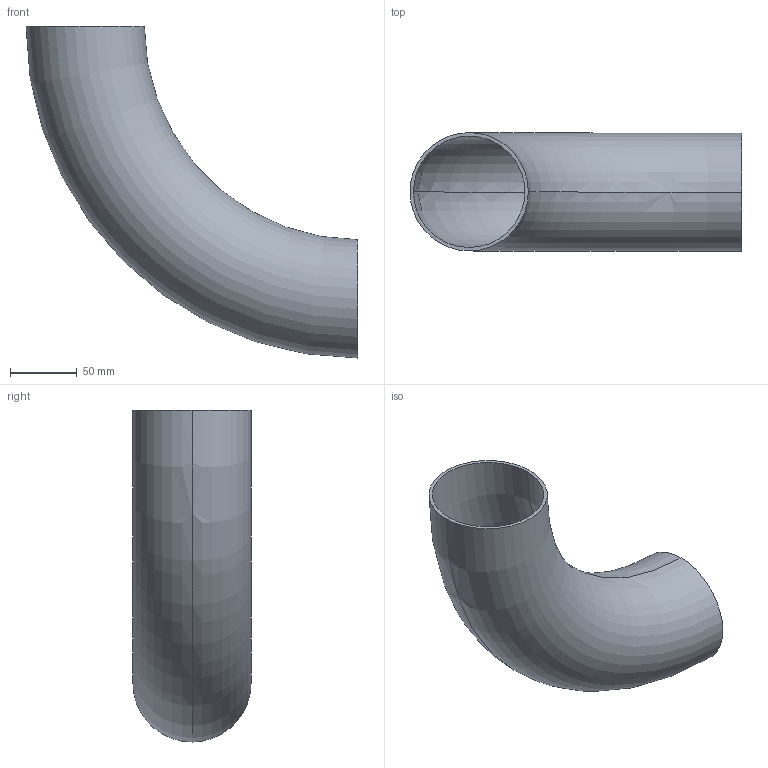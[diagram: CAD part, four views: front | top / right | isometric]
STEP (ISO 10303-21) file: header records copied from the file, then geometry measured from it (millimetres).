
FILE_DESCRIPTION (( 'STEP AP203' ), '1' );
FILE_NAME ('3D_R1655_88.9x2.6_17362290.STEP', '2024-08-05T09:18:10', ( '' ), ( '' ), 'SwSTEP 2.0', 'SolidWorks 2024', '' );
FILE_SCHEMA (( 'CONFIG_CONTROL_DESIGN' ));
Length unit declared in the file: millimetre
Products named in the file (1): 3D_R1655_88.9x2.6_17362290
Bounding box: 249.45 x 88.9 x 249.45 mm (x, y, z)
Volume: 226990.5 mm3; surface area: 176017.9 mm2
Topology: 1 solids, 1 shells, 6 faces, 12 edges, 8 vertices
Faces by surface type: torus 4, plane 2
Entity records: 249 total; most frequent: DIRECTION 38, CARTESIAN_POINT 27, ORIENTED_EDGE 24, AXIS2_PLACEMENT_3D 19, EDGE_CURVE 12, CIRCLE 12, EDGE_LOOP 8, PERSON_AND_ORGANIZATION 8
